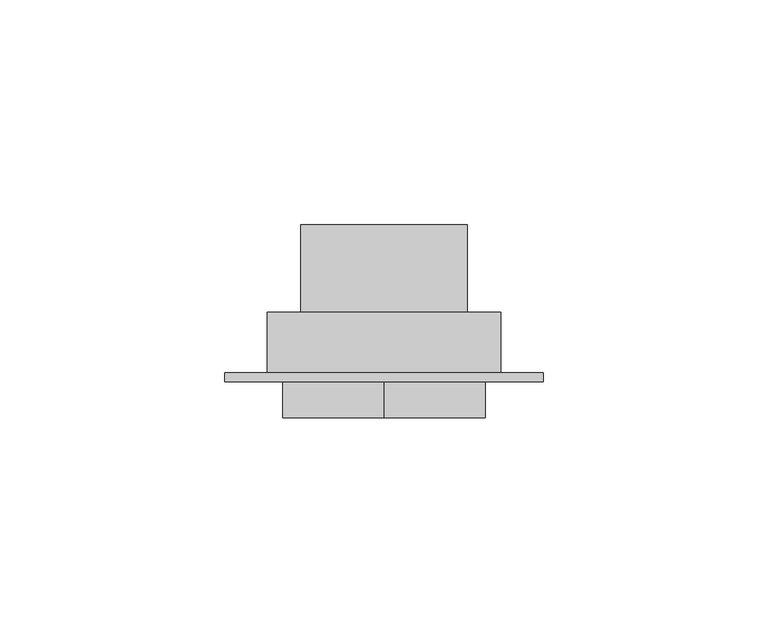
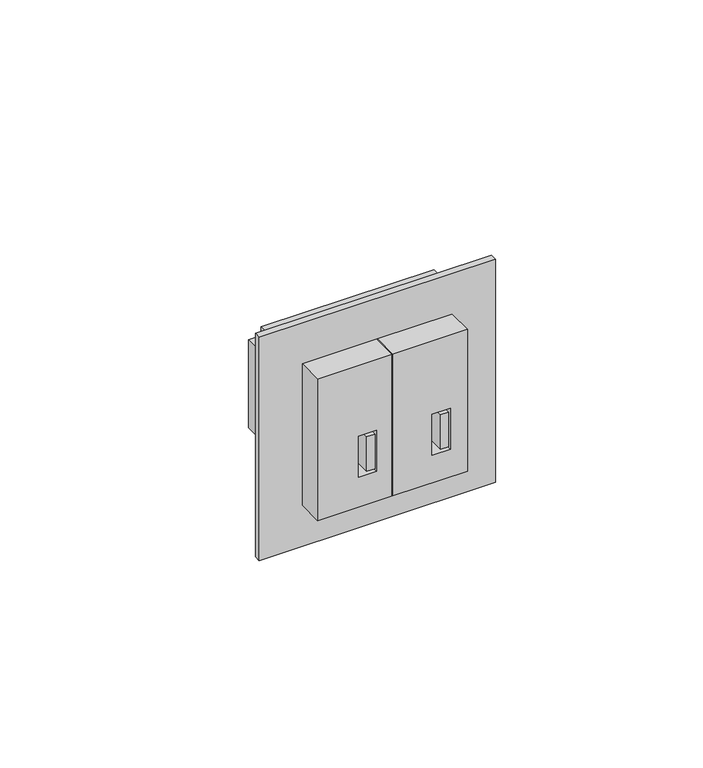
"""IFC4 building model written with IfcOpenShell, lengths in millimetres: proxy geometry."""

import ifcopenshell
import ifcopenshell.guid

model = None  # the IFC model being written
_history = None  # IfcOwnerHistory: only IFC2X3 demands one
_inside = {}  # id of a spatial element -> (the spatial element, [elements in it])
_under = {}  # id of a project, library or spatial element -> (it, [spatial elements below it])
_declared = {}  # id of a project -> (the project, [libraries it declares])
_typed = {}  # id of a type object -> (the type object, [elements of that type])
_made_of = {}  # id of a material, layer set ... -> (it, [elements and type objects made of it])


def new_model(schema):
    """Start an empty IFC model of exactly this schema.

    Asked for "IFC4X3", IfcOpenShell would pick the latest addendum, in which some entities
    have other attributes; the version numbers below select the first issue.
    IFC2X3 requires an IfcOwnerHistory on every rooted entity: one is made here for all.
    """
    global model, _history
    if schema == "IFC4X3":
        model = ifcopenshell.file(schema_version=(4, 3, 0, 0))
    else:
        model = ifcopenshell.file(schema=schema)
    _inside.clear()
    _under.clear()
    _declared.clear()
    _typed.clear()
    _made_of.clear()
    _history = None
    if model.schema == "IFC2X3":
        org = make("IfcOrganization", Name="unknown")
        user = make(
            "IfcPersonAndOrganization",
            ThePerson=make("IfcPerson", FamilyName="unknown"),
            TheOrganization=org,
        )
        app = make(
            "IfcApplication",
            ApplicationDeveloper=org,
            Version="unknown",
            ApplicationFullName="unknown",
            ApplicationIdentifier="unknown",
        )
        _history = make(
            "IfcOwnerHistory",
            OwningUser=user,
            OwningApplication=app,
            ChangeAction="ADDED",
            CreationDate=0,
        )
    return model


def make(cls, **values):
    """One entity of the class cls with the attributes given. An attribute that is None is left unset."""
    return model.create_entity(
        cls, **{name: value for name, value in values.items() if value is not None}
    )


def rooted(cls, **values):
    """An entity with a GlobalId (a new one), such as an element, a storey or a relation."""
    return make(cls, GlobalId=ifcopenshell.guid.new(), OwnerHistory=_history, **values)


def si_unit(unit_type, name, prefix=None):
    """IfcSIUnit, for example si_unit("LENGTHUNIT", "METRE", prefix="MILLI")."""
    return make("IfcSIUnit", UnitType=unit_type, Prefix=prefix, Name=name)


def assignment(units):
    """IfcUnitAssignment: the units of a project."""
    return None if units is None else make("IfcUnitAssignment", Units=units)


def point(xyz):
    """IfcCartesianPoint."""
    return None if xyz is None else make("IfcCartesianPoint", Coordinates=xyz)


def direction(xyz):
    """IfcDirection."""
    return None if xyz is None else make("IfcDirection", DirectionRatios=xyz)


def frame(location, z_axis=None, x_axis=None):
    """IfcAxis2Placement3D, a coordinate frame: its origin and axes. An axis left out is left unset."""
    return make(
        "IfcAxis2Placement3D",
        Location=point(location),
        Axis=direction(z_axis),
        RefDirection=direction(x_axis),
    )


def origin():
    """The frame at (0, 0, 0) with its axes left unset."""
    return frame((0.0, 0.0, 0.0))


def place(relative_to, where):
    """IfcLocalPlacement: puts the frame where relative to a parent placement (None: the world)."""
    return make(
        "IfcLocalPlacement", PlacementRelTo=relative_to, RelativePlacement=where
    )


def context(
    kind, dimensions, precision=None, world=None, true_north=None, identifier=None
):
    """IfcGeometricRepresentationContext, for example the 3D "Model" context."""
    return make(
        "IfcGeometricRepresentationContext",
        ContextIdentifier=identifier,
        ContextType=kind,
        CoordinateSpaceDimension=dimensions,
        Precision=precision,
        WorldCoordinateSystem=world,
        TrueNorth=true_north,
    )


def project(units=None, contexts=None):
    """IfcProject with its units and contexts."""
    return rooted(
        "IfcProject",
        Name="project",
        RepresentationContexts=contexts,
        UnitsInContext=assignment(units),
    )


def spatial(cls, under=None, at=None, **own):
    """A site, building, storey or space (cls), placed at a placement, below another one or the project."""
    s = rooted(cls, ObjectPlacement=at, **own)
    if under is not None:
        _under.setdefault(under.id(), (under, []))[1].append(s)
    return s


def polyline(points):
    """IfcPolyline through the points."""
    return make("IfcPolyline", Points=[point(p) for p in points])


def outline(outer, holes=None, kind="AREA"):
    """IfcArbitraryClosedProfileDef: a profile drawn as a closed curve; with holes, ...WithVoids."""
    if holes is None:
        return make("IfcArbitraryClosedProfileDef", ProfileType=kind, OuterCurve=outer)
    return make(
        "IfcArbitraryProfileDefWithVoids",
        ProfileType=kind,
        OuterCurve=outer,
        InnerCurves=holes,
    )


def extrude(swept, where, along, depth):
    """IfcExtrudedAreaSolid: the profile swept, set in the frame where, extruded along a direction by depth."""
    return make(
        "IfcExtrudedAreaSolid",
        SweptArea=swept,
        Position=where,
        ExtrudedDirection=direction(along),
        Depth=depth,
    )


def faces_of(points, faces, orient=None, outer=None):
    """IfcFace entities. A face is a list of loops; a loop is a list of indices into points, from 0.

    orient and outer hold one flag for each loop. By default every Orientation is true, the
    first loop of a face is its IfcFaceOuterBound and the others are IfcFaceBound.
    """
    made = []
    for i, loops in enumerate(faces):
        bounds = []
        for j, loop in enumerate(loops):
            is_outer = j == 0 if outer is None else outer[i][j]
            bounds.append(
                make(
                    "IfcFaceOuterBound" if is_outer else "IfcFaceBound",
                    Bound=make("IfcPolyLoop", Polygon=[points[k] for k in loop]),
                    Orientation=True if orient is None else orient[i][j],
                )
            )
        made.append(make("IfcFace", Bounds=bounds))
    return made


def faceted_brep(points, faces, orient=None, outer=None, voids=None):
    """IfcFacetedBrep: a solid bounded by flat faces; with voids (closed shells), ...WithVoids."""
    shared = [point(p) for p in points]
    hull = make("IfcClosedShell", CfsFaces=faces_of(shared, faces, orient, outer))
    if voids is None:
        return make("IfcFacetedBrep", Outer=hull)
    return make(
        "IfcFacetedBrepWithVoids",
        Outer=hull,
        Voids=[
            make(cls, CfsFaces=faces_of(shared, fs, o, b)) for cls, fs, o, b in voids
        ],
    )


def shape(context_of_items, identifier, shape_type, items):
    """IfcShapeRepresentation: the items that make up one representation, for example the "Body"."""
    return make(
        "IfcShapeRepresentation",
        ContextOfItems=context_of_items,
        RepresentationIdentifier=identifier,
        RepresentationType=shape_type,
        Items=items,
    )


def source(mapping_origin, context_of_items, identifier, shape_type, items):
    """IfcRepresentationMap: a shape defined once, which mapped items show again and again."""
    return make(
        "IfcRepresentationMap",
        MappingOrigin=mapping_origin,
        MappedRepresentation=shape(context_of_items, identifier, shape_type, items),
    )


def transform(
    local_origin,
    x_axis=None,
    y_axis=None,
    z_axis=None,
    scale=None,
    scale2=None,
    scale3=None,
    uniform=True,
):
    """IfcCartesianTransformationOperator3D, or its non-uniform kind. x_axis, y_axis, z_axis: its Axis1, 2, 3."""
    if uniform:
        return make(
            "IfcCartesianTransformationOperator3D",
            Axis1=direction(x_axis),
            Axis2=direction(y_axis),
            LocalOrigin=point(local_origin),
            Scale=scale,
            Axis3=direction(z_axis),
        )
    return make(
        "IfcCartesianTransformationOperator3DnonUniform",
        Axis1=direction(x_axis),
        Axis2=direction(y_axis),
        LocalOrigin=point(local_origin),
        Scale=scale,
        Axis3=direction(z_axis),
        Scale2=scale2,
        Scale3=scale3,
    )


def mapped(mapping_source, mapping_target):
    """IfcMappedItem: shows the shape of a source again, moved by a transform."""
    return make(
        "IfcMappedItem", MappingSource=mapping_source, MappingTarget=mapping_target
    )


def made_of(thing, what):
    """Note that an element or type object is made of a material, layer set ...; save() writes the relation."""
    if what is not None:
        _made_of.setdefault(what.id(), (what, []))[1].append(thing)
    return thing


def element(
    cls,
    number,
    at=None,
    inside=None,
    cuts=None,
    type_object=None,
    material=None,
    context=None,
    identifier="Body",
    shape_type=None,
    held_by="IfcProductDefinitionShape",
    body=None,
    shapes=None,
    **own,
):
    """One element of the class cls, such as IfcWall. Its Tag is "e" and its number.

    at: its placement. inside: the storey or other place that contains it. cuts: it is an
    opening in that element (IfcRelVoidsElement). A single representation is given by context,
    identifier, shape_type and body (its items); several are given by shapes. held_by: the class
    of the entity that holds the representations. save() writes the other relations.
    """
    e = rooted(cls, Tag="e%d" % number, ObjectPlacement=at, **own)
    if body is not None:
        shapes = [shape(context, identifier, shape_type, body)]
    if shapes is not None:
        e.Representation = make(held_by, Representations=shapes)
    if inside is not None:
        _inside.setdefault(inside.id(), (inside, []))[1].append(e)
    if cuts is not None:
        rooted(
            "IfcRelVoidsElement", RelatingBuildingElement=cuts, RelatedOpeningElement=e
        )
    if type_object is not None:
        _typed.setdefault(type_object.id(), (type_object, []))[1].append(e)
    return made_of(e, material)


def aggregate(whole, parts):
    """IfcRelAggregates: a whole, such as a stair, and the parts it consists of."""
    return rooted("IfcRelAggregates", RelatingObject=whole, RelatedObjects=parts)


def save(model, path):
    """Write the relations noted so far, then the file.

    IfcRelAggregates (storeys below a building ...), IfcRelContainedInSpatialStructure (elements
    in a storey), IfcRelDefinesByType, IfcRelAssociatesMaterial and IfcRelDeclares: one each for
    every whole, place, type object, material and project.
    """
    for whole, parts in _under.values():
        aggregate(whole, parts)
    for where, things in _inside.values():
        rooted(
            "IfcRelContainedInSpatialStructure",
            RelatedElements=things,
            RelatingStructure=where,
        )
    for kind, things in _typed.values():
        rooted("IfcRelDefinesByType", RelatedObjects=things, RelatingType=kind)
    for what, things in _made_of.values():
        rooted("IfcRelAssociatesMaterial", RelatedObjects=things, RelatingMaterial=what)
    for by, libraries in _declared.values():
        rooted("IfcRelDeclares", RelatingContext=by, RelatedDefinitions=libraries)
    model.write(path)


def electrical_fixtures_9d928247(model_context):
    return source(origin(), model_context, "Body", "SolidModel", [
        extrude(outline(polyline([(22.5, 0.0), (-22.5, 0.0), (-22.5, 22.5), (22.5, 22.5), (22.5, 0.0)]), holes=[polyline([(-0.7725126, 17.3166667), (-13.7725126, 17.3166667), (-13.7725126, 11.8166667), (-0.7725126, 11.8166667), (-0.7725126, 17.3166667)])]), frame((0.0, -44.7, 0.0), z_axis=(0.0, 1.0, 0.0), x_axis=(0.0, 0.0, 1.0)), (0.0, 0.0, 1.0), 8.0),
        extrude(outline(polyline([(14.3166667, -44.7), (14.3166667, -36.7), (16.8166667, -36.7), (16.8166667, -44.7), (14.3166667, -44.7)])), frame((0.0, 0.0, -12.7725126), z_axis=(0.0, 0.0, 1.0), x_axis=(1.0, 0.0, 0.0)), (0.0, 0.0, 1.0), 11.0),
        extrude(outline(polyline([(22.5, -22.5), (-22.5, -22.5), (-22.5, 0.0), (22.5, 0.0), (22.5, -22.5)]), holes=[polyline([(0.0, -4.8051995), (-13.0, -4.8051995), (-13.0, -10.3051995), (0.0, -10.3051995), (0.0, -4.8051995)])]), frame((0.0, -44.7, 0.0), z_axis=(0.0, 1.0, 0.0), x_axis=(0.0, 0.0, 1.0)), (0.0, 0.0, 1.0), 8.0),
        extrude(outline(polyline([(-7.8051995, -44.7), (-7.8051995, -36.7), (-5.3051995, -36.7), (-5.3051995, -44.7), (-7.8051995, -44.7)])), frame((0.0, 0.0, -12.0), z_axis=(0.0, 0.0, 1.0), x_axis=(1.0, 0.0, 0.0)), (0.0, 0.0, 1.0), 11.0),
        faceted_brep([(35.45, -34.7, -35.45), (-35.45, -34.7, -35.45), (-35.45, -34.7, 35.45), (35.45, -34.7, 35.45), (-26.0, -34.7, -26.0), (26.0, -34.7, -26.0), (26.0, -34.7, 26.0), (-26.0, -34.7, 26.0), (35.45, -36.7, -35.45), (35.45, -36.7, 35.45), (-35.45, -36.7, 35.45), (-35.45, -36.7, -35.45), (17.3166667, -36.7, -0.7725126), (17.3166667, -36.7, -13.7725126), (11.8166667, -36.7, -13.7725126), (11.8166667, -36.7, -0.7725126), (16.8166667, -36.7, -1.7725126), (14.3166667, -36.7, -1.7725126), (14.3166667, -36.7, -12.7725126), (16.8166667, -36.7, -12.7725126), (26.0, -21.2, -26.0), (-26.0, -21.2, -26.0), (-26.0, -21.2, 26.0), (26.0, -21.2, 26.0), (-18.5, -21.2, -20.5), (18.5, -21.2, -20.5), (18.5, -21.2, 7.5), (-18.5, -21.2, 7.5), (18.5, -1.7, -20.5), (-18.5, -1.7, -20.5), (-18.5, -1.7, 7.5), (18.5, -1.7, 7.5), (17.3166667, -34.7, -0.7725126), (11.8166667, -34.7, -0.7725126), (11.8166667, -34.7, -13.7725126), (17.3166667, -34.7, -13.7725126), (16.8166667, -34.7, -1.7725126), (16.8166667, -34.7, -12.7725126), (14.3166667, -34.7, -12.7725126), (14.3166667, -34.7, -1.7725126)], [[[0, 1, 2, 3], [4, 5, 6, 7]], [[8, 9, 10, 11], [12, 13, 14, 15]], [[16, 17, 18, 19]], [[1, 0, 8, 11]], [[2, 1, 11, 10]], [[3, 2, 10, 9]], [[0, 3, 9, 8]], [[20, 21, 22, 23], [24, 25, 26, 27]], [[21, 20, 5, 4]], [[22, 21, 4, 7]], [[23, 22, 7, 6]], [[20, 23, 6, 5]], [[28, 29, 30, 31]], [[29, 28, 25, 24]], [[30, 29, 24, 27]], [[31, 30, 27, 26]], [[28, 31, 26, 25]], [[32, 33, 34, 35], [36, 37, 38, 39]], [[32, 35, 13, 12]], [[35, 34, 14, 13]], [[34, 33, 15, 14]], [[33, 32, 12, 15]], [[36, 39, 17, 16]], [[39, 38, 18, 17]], [[38, 37, 19, 18]], [[37, 36, 16, 19]]]),
    ])


if __name__ == "__main__":
    model = new_model("IFC4")
    model_context = context("Model", 3, world=origin())
    ifc_project = project(units=[si_unit("LENGTHUNIT", "METRE", prefix="MILLI")], contexts=[model_context])
    site = spatial("IfcSite", under=ifc_project)
    building = spatial("IfcBuilding", under=site)
    placement = place(None, origin())
    electrical_fixtures_shape = electrical_fixtures_9d928247(model_context)
    element("IfcBuildingElementProxy", 1, Name="Electrical Fixtures", at=placement, inside=building, context=model_context, shape_type="MappedRepresentation", body=[
        mapped(electrical_fixtures_shape, transform((0.0, 0.0, 0.0), x_axis=(1.0, 0.0, 0.0), y_axis=(0.0, 1.0, 0.0), z_axis=(0.0, 0.0, 1.0))),
    ])
    save(model, "model.ifc")
